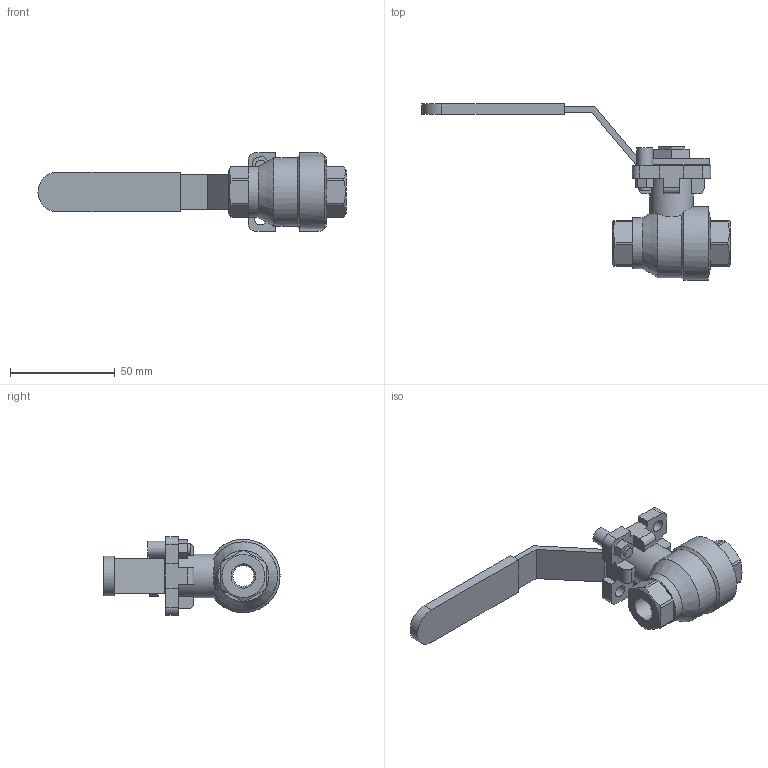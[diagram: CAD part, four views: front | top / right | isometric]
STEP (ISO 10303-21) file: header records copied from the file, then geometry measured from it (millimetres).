
FILE_DESCRIPTION (( 'STEP AP203' ), '1' );
FILE_NAME ('B3.622I007IFVPB0.STEP', '2018-09-27T15:14:13', ( 'dell2' ), ( 'Microsoft' ), 'SwSTEP 2.0', 'SolidWorks 2014', '' );
FILE_SCHEMA (( 'CONFIG_CONTROL_DESIGN' ));
Length unit declared in the file: millimetre
Products named in the file (1): B3.622I007IFVPB0
Bounding box: 147 x 84 x 37.5 mm (x, y, z)
Volume: 57513.4 mm3; surface area: 19818.9 mm2
Topology: 1 solids, 2 shells, 137 faces, 372 edges, 246 vertices
Faces by surface type: plane 101, cylinder 29, cone 7
Full cylindrical faces by diameter (mm): 5 x2, 6 x4, 7.7 x1, 10 x1, 11.6 x2, 20.8 x1, 24.3 x1, 35 x1
Entity records: 4403 total; most frequent: CARTESIAN_POINT 977, ORIENTED_EDGE 682, DIRECTION 670, EDGE_CURVE 341, LINE 240, VECTOR 240, VERTEX_POINT 234, AXIS2_PLACEMENT_3D 215
